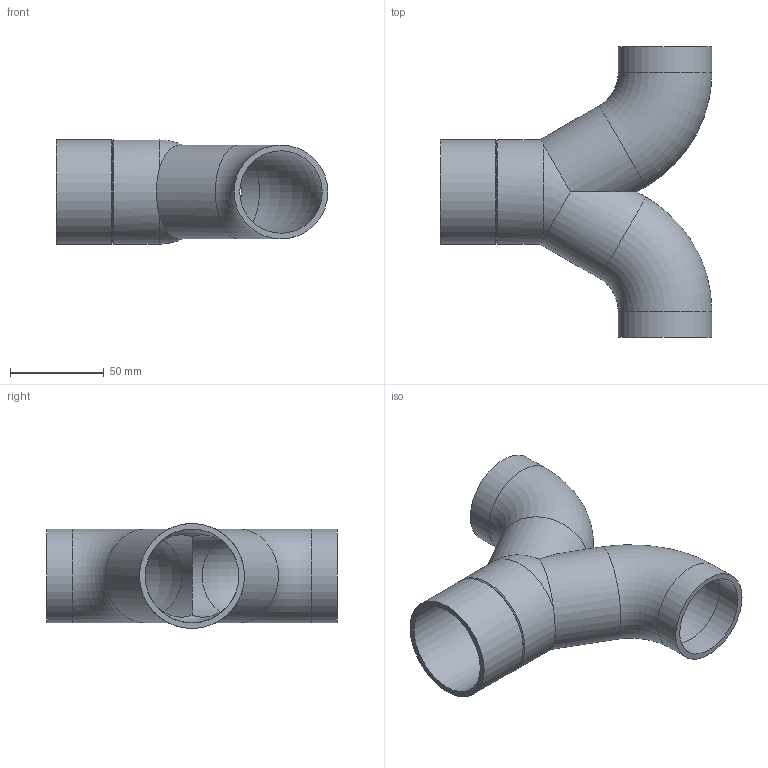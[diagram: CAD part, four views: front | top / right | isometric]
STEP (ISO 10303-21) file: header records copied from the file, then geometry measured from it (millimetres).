
FILE_DESCRIPTION(/* description */ (''),/* implementation_level */ '2;1');
FILE_NAME(/* name */ 'Z:\Geberit\Export\NewStep\363472.stp',/* time_stamp */ '2014-04-01T21:09:12+02:00',/* author */ ('nelson'),/* organization */ (''),/* preprocessor_version */ 'ST-DEVELOPER v15.2',/* originating_system */ 'Autodesk Inventor 2014',/* authorisation */ '');
FILE_SCHEMA (('AUTOMOTIVE_DESIGN { 1 0 10303 214 3 1 1 }'));
Length unit declared in the file: millimetre
Products named in the file (1): 363472
Bounding box: 145 x 155 x 56 mm (x, y, z)
Volume: 109839 mm3; surface area: 74699.5 mm2
Topology: 1 solids, 1 shells, 24 faces, 63 edges, 40 vertices
Faces by surface type: cylinder 11, torus 4, sphere 4, plane 3, cone 2
Full cylindrical faces by diameter (mm): 44 x4, 50 x5, 56 x2
Entity records: 631 total; most frequent: CARTESIAN_POINT 133, DIRECTION 112, ORIENTED_EDGE 70, AXIS2_PLACEMENT_3D 56, EDGE_LOOP 44, EDGE_CURVE 35, CIRCLE 29, VERTEX_POINT 29
